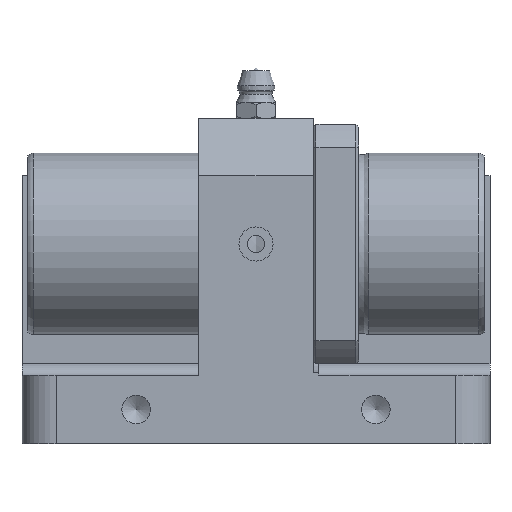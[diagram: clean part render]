
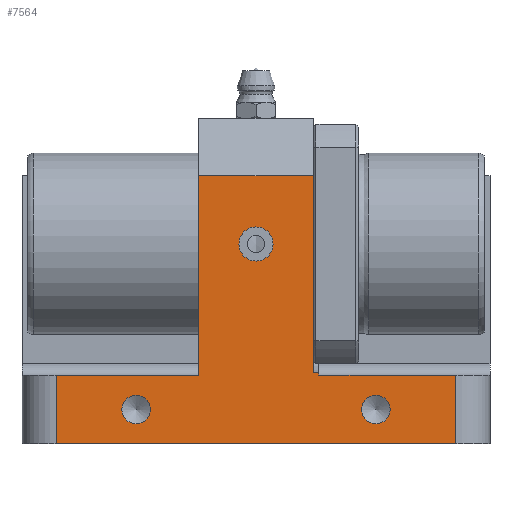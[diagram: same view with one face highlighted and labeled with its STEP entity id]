
A CAD part, front view. The second image highlights one B-rep face of the part: STEP entity #7564.
In plain terms, the highlighted planar face has unit normal (0, -1, 0).
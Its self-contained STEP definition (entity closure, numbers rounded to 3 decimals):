
#7418=CARTESIAN_POINT('',(76.0,-63.,12.));
#7419=VERTEX_POINT('',#7418);
#7427=CARTESIAN_POINT('',(76.0,-63.,0.0));
#7428=VERTEX_POINT('',#7427);
#7429=CARTESIAN_POINT('',(76.0,-63.,12.));
#7430=DIRECTION('',(0.0,0.0,-1.0));
#7431=VECTOR('',#7430,12.);
#7432=LINE('',#7429,#7431);
#7433=EDGE_CURVE('',#7419,#7428,#7432,.T.);
#7453=CARTESIAN_POINT('',(82.,-63.,0.0));
#7454=DIRECTION('',(0.0,-1.0,0.0));
#7455=DIRECTION('',(0.0,0.0,-1.0));
#7456=AXIS2_PLACEMENT_3D('',#7453,#7454,#7455);
#7457=PLANE('',#7456);
#7458=ORIENTED_EDGE('',*,*,#7433,.F.);
#7459=CARTESIAN_POINT('',(52.,-63.,12.));
#7460=VERTEX_POINT('',#7459);
#7461=CARTESIAN_POINT('',(76.0,-63.,12.));
#7462=DIRECTION('',(-1.0,0.0,0.0));
#7463=VECTOR('',#7462,24.);
#7464=LINE('',#7461,#7463);
#7465=EDGE_CURVE('',#7419,#7460,#7464,.T.);
#7466=ORIENTED_EDGE('',*,*,#7465,.T.);
#7467=CARTESIAN_POINT('',(52.,-63.,12.5));
#7468=VERTEX_POINT('',#7467);
#7469=CARTESIAN_POINT('',(52.,-63.,12.));
#7470=DIRECTION('',(0.0,0.0,1.0));
#7471=VECTOR('',#7470,0.5);
#7472=LINE('',#7469,#7471);
#7473=EDGE_CURVE('',#7460,#7468,#7472,.T.);
#7474=ORIENTED_EDGE('',*,*,#7473,.T.);
#7475=CARTESIAN_POINT('',(51.,-63.,12.5));
#7476=VERTEX_POINT('',#7475);
#7477=CARTESIAN_POINT('',(51.,-63.,12.5));
#7478=DIRECTION('',(1.0,0.0,0.0));
#7479=VECTOR('',#7478,1.);
#7480=LINE('',#7477,#7479);
#7481=EDGE_CURVE('',#7476,#7468,#7480,.T.);
#7482=ORIENTED_EDGE('',*,*,#7481,.F.);
#7483=CARTESIAN_POINT('',(51.,-63.,47.0));
#7484=VERTEX_POINT('',#7483);
#7485=CARTESIAN_POINT('',(51.,-63.,12.5));
#7486=DIRECTION('',(0.0,0.0,1.0));
#7487=VECTOR('',#7486,34.5);
#7488=LINE('',#7485,#7487);
#7489=EDGE_CURVE('',#7476,#7484,#7488,.T.);
#7490=ORIENTED_EDGE('',*,*,#7489,.T.);
#7491=CARTESIAN_POINT('',(31.,-63.,47.0));
#7492=VERTEX_POINT('',#7491);
#7493=CARTESIAN_POINT('',(31.,-63.,47.0));
#7494=DIRECTION('',(1.0,0.0,0.0));
#7495=VECTOR('',#7494,20.0);
#7496=LINE('',#7493,#7495);
#7497=EDGE_CURVE('',#7492,#7484,#7496,.T.);
#7498=ORIENTED_EDGE('',*,*,#7497,.F.);
#7499=CARTESIAN_POINT('',(31.,-63.,12.));
#7500=VERTEX_POINT('',#7499);
#7501=CARTESIAN_POINT('',(31.,-63.,47.0));
#7502=DIRECTION('',(0.0,0.0,-1.0));
#7503=VECTOR('',#7502,35.);
#7504=LINE('',#7501,#7503);
#7505=EDGE_CURVE('',#7492,#7500,#7504,.T.);
#7506=ORIENTED_EDGE('',*,*,#7505,.T.);
#7507=CARTESIAN_POINT('',(6.,-63.,12.));
#7508=VERTEX_POINT('',#7507);
#7509=CARTESIAN_POINT('',(31.,-63.,12.));
#7510=DIRECTION('',(-1.0,0.0,0.0));
#7511=VECTOR('',#7510,25.);
#7512=LINE('',#7509,#7511);
#7513=EDGE_CURVE('',#7500,#7508,#7512,.T.);
#7514=ORIENTED_EDGE('',*,*,#7513,.T.);
#7515=CARTESIAN_POINT('',(6.,-63.,0.0));
#7516=VERTEX_POINT('',#7515);
#7517=CARTESIAN_POINT('',(6.,-63.,0.0));
#7518=DIRECTION('',(0.0,0.0,1.0));
#7519=VECTOR('',#7518,12.);
#7520=LINE('',#7517,#7519);
#7521=EDGE_CURVE('',#7516,#7508,#7520,.T.);
#7522=ORIENTED_EDGE('',*,*,#7521,.F.);
#7523=CARTESIAN_POINT('',(6.,-63.,0.0));
#7524=DIRECTION('',(1.0,0.0,0.0));
#7525=VECTOR('',#7524,70.0);
#7526=LINE('',#7523,#7525);
#7527=EDGE_CURVE('',#7516,#7428,#7526,.T.);
#7528=ORIENTED_EDGE('',*,*,#7527,.T.);
#7529=EDGE_LOOP('',(#7458,#7466,#7474,#7482,#7490,#7498,#7506,#7514,#7522,#7528));
#7530=FACE_OUTER_BOUND('',#7529,.T.);
#7531=CARTESIAN_POINT('',(64.5,-63.,6.));
#7532=VERTEX_POINT('',#7531);
#7533=CARTESIAN_POINT('',(62.0,-63.,6.));
#7534=DIRECTION('',(0.0,1.0,0.0));
#7535=DIRECTION('',(1.0,0.0,0.0));
#7536=AXIS2_PLACEMENT_3D('',#7533,#7534,#7535);
#7537=CIRCLE('',#7536,2.5);
#7538=EDGE_CURVE('',#7532,#7532,#7537,.T.);
#7539=ORIENTED_EDGE('',*,*,#7538,.T.);
#7540=EDGE_LOOP('',(#7539));
#7541=FACE_BOUND('',#7540,.T.);
#7542=CARTESIAN_POINT('',(22.5,-63.,6.));
#7543=VERTEX_POINT('',#7542);
#7544=CARTESIAN_POINT('',(20.0,-63.,6.));
#7545=DIRECTION('',(0.0,1.0,0.0));
#7546=DIRECTION('',(1.0,0.0,0.0));
#7547=AXIS2_PLACEMENT_3D('',#7544,#7545,#7546);
#7548=CIRCLE('',#7547,2.5);
#7549=EDGE_CURVE('',#7543,#7543,#7548,.T.);
#7550=ORIENTED_EDGE('',*,*,#7549,.T.);
#7551=EDGE_LOOP('',(#7550));
#7552=FACE_BOUND('',#7551,.T.);
#7553=CARTESIAN_POINT('',(44.,-63.,35.));
#7554=VERTEX_POINT('',#7553);
#7555=CARTESIAN_POINT('',(41.,-63.,35.));
#7556=DIRECTION('',(0.0,1.0,0.0));
#7557=DIRECTION('',(1.0,0.0,0.0));
#7558=AXIS2_PLACEMENT_3D('',#7555,#7556,#7557);
#7559=CIRCLE('',#7558,3.);
#7560=EDGE_CURVE('',#7554,#7554,#7559,.T.);
#7561=ORIENTED_EDGE('',*,*,#7560,.T.);
#7562=EDGE_LOOP('',(#7561));
#7563=FACE_BOUND('',#7562,.T.);
#7564=ADVANCED_FACE('',(#7530,#7541,#7552,#7563),#7457,.T.);
